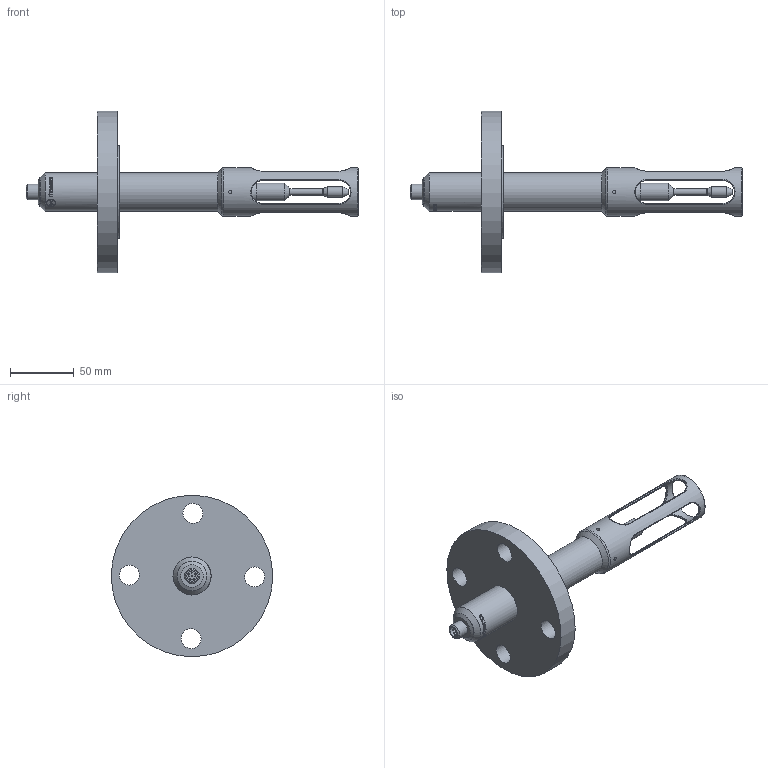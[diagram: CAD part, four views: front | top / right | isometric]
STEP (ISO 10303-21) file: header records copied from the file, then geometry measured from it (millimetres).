
FILE_DESCRIPTION(/* description */ ('Unknown'),/* implementation_level */ '2;1');
FILE_NAME(/* name */ 'SPS-HD-SRV',/* time_stamp */ '2024-12-04T16:05:11-05:00',/* author */ ('Unknown'),/* organization */ ('Unknown'),/* preprocessor_version */ 'ST-DEVELOPER v16.7',/* originating_system */ 'Solid Edge',/* authorisation */ 'Unknown');
FILE_SCHEMA (('AUTOMOTIVE_DESIGN {1 0 10303 214 3 1 1}'));
Length unit declared in the file: millimetre
Products named in the file (3): SPS-HD-SRV; SPS-HD-SRX; SRV-HD-X5-A180-BA15A
Assembly tree (2 placements, depth 2):
  SPS-HD-SRV
    SPS-HD-SRX
    SRV-HD-X5-A180-BA15A
Bounding box: 261.21 x 126.99 x 126.99 mm (x, y, z)
Volume: 319958.7 mm3; surface area: 64940 mm2
Topology: 2 solids, 2 shells, 231 faces, 588 edges, 376 vertices
Faces by surface type: bspline 87, cylinder 74, plane 45, torus 9, cone 8, sphere 8
Full cylindrical faces by diameter (mm): 0.8 x8, 2.459 x4, 5 x1, 8 x2, 12 x1, 13.9 x1, 15.748 x4, 30 x3, 35 x1, 38 x1, 73.152 x1, 127 x1
Entity records: 11489 total; most frequent: CARTESIAN_POINT 6823, ORIENTED_EDGE 1002, DIRECTION 700, EDGE_CURVE 501, VERTEX_POINT 346, EDGE_LOOP 329, FACE_BOUND 329, AXIS2_PLACEMENT_3D 263
